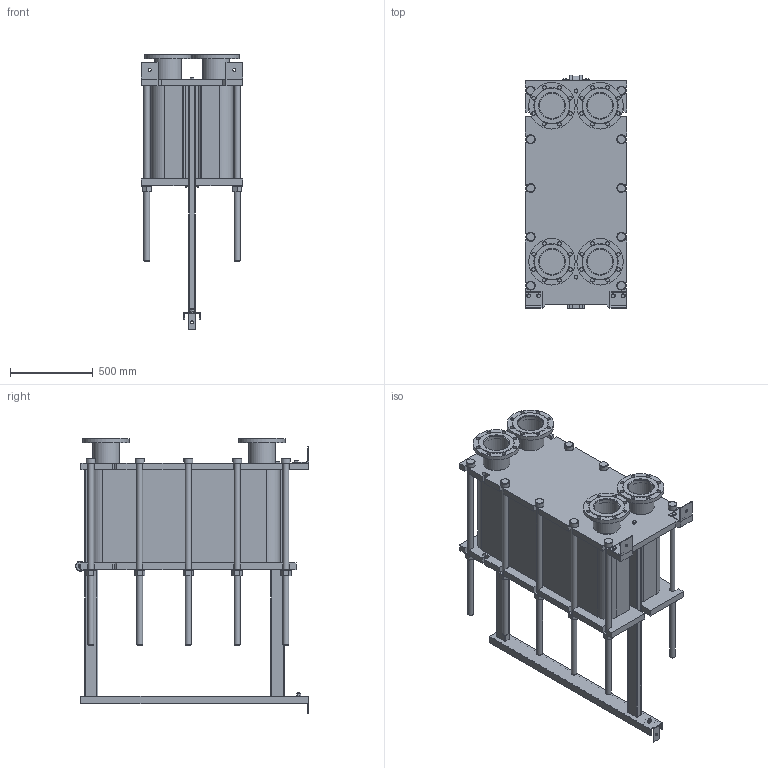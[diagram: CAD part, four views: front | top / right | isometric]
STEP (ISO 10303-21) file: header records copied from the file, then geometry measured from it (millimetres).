
FILE_DESCRIPTION(/* description */ (''),/* implementation_level */ '2;1');
FILE_NAME(/* name */ 'C:\Users\zhuro\Desktop\ENCO\TO\ЭН-041\ЭН-0,5-041-163-1.stp',/* time_stamp */ '2022-06-06T11:04:10+03:00',/* author */ ('zhuro'),/* organization */ (''),/* preprocessor_version */ 'ST-DEVELOPER v18.1',/* originating_system */ 'Autodesk Inventor 2022',/* authorisation */ '');
FILE_SCHEMA (('AUTOMOTIVE_DESIGN { 1 0 10303 214 3 1 1 }'));
Length unit declared in the file: millimetre
Products named in the file (1): ЭН-0,5-041-163-1
Bounding box: 610 x 1406.5 x 1662.5 mm (x, y, z)
Volume: 401186926.8 mm3; surface area: 10413609.5 mm2
Topology: 52 solids, 52 shells, 711 faces, 1696 edges, 1094 vertices
Faces by surface type: plane 487, cylinder 177, cone 41, torus 6
Full cylindrical faces by diameter (mm): 8 x4, 10 x2, 16 x8, 18 x3, 22 x32, 36 x24, 50 x1, 54 x10, 60 x12, 151 x4, 161 x8, 280 x4
Entity records: 22667 total; most frequent: CARTESIAN_POINT 5230, DIRECTION 3644, ORIENTED_EDGE 3392, EDGE_CURVE 1696, AXIS2_PLACEMENT_3D 1272, LINE 1100, VECTOR 1100, VERTEX_POINT 1094
